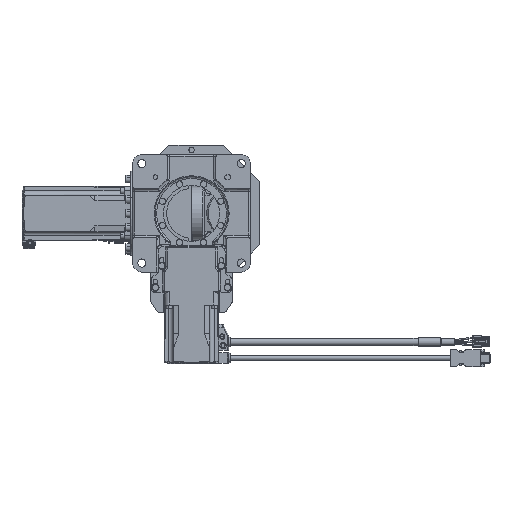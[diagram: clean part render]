
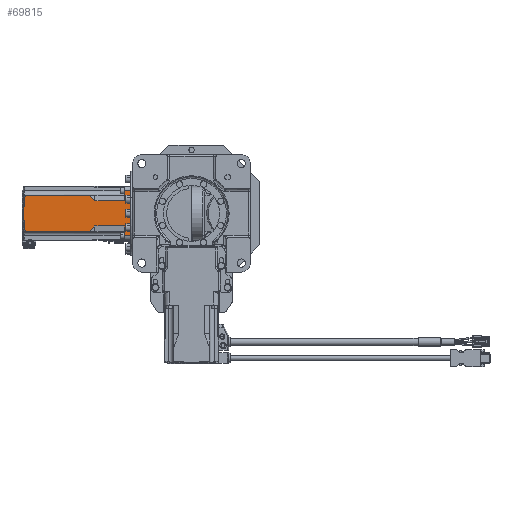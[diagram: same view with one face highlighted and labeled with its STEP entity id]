
A CAD part, front view. The second image highlights one B-rep face of the part: STEP entity #69815.
In plain terms, the highlighted planar face has unit normal (0, -1, 0).
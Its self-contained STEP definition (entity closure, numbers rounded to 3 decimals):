
#250 = FACE_OUTER_BOUND ( 'NONE', #83829, .T. ) ;
#635 = VECTOR ( 'NONE', #36204, 1000. ) ;
#1340 = ORIENTED_EDGE ( 'NONE', *, *, #72117, .T. ) ;
#1428 = CARTESIAN_POINT ( 'NONE',  ( -74.5, 137., -14. ) ) ;
#2146 = CARTESIAN_POINT ( 'NONE',  ( -126.3, 137., -14. ) ) ;
#2323 = LINE ( 'NONE', #78607, #635 ) ;
#3336 = EDGE_CURVE ( 'NONE', #86758, #80752, #80095, .T. ) ;
#4861 = EDGE_CURVE ( 'NONE', #26233, #61228, #65732, .T. ) ;
#5369 = EDGE_CURVE ( 'NONE', #79938, #28806, #15829, .T. ) ;
#6123 = VECTOR ( 'NONE', #77907, 1000. ) ;
#6360 = DIRECTION ( 'NONE',  ( 0., 0., 1. ) ) ;
#7818 = DIRECTION ( 'NONE',  ( 0., 1., 0. ) ) ;
#10040 = LINE ( 'NONE', #56034, #25400 ) ;
#10286 = ORIENTED_EDGE ( 'NONE', *, *, #85094, .F. ) ;
#10436 = EDGE_CURVE ( 'NONE', #86758, #45187, #14226, .T. ) ;
#11841 = DIRECTION ( 'NONE',  ( -0.718, 0., -0.696 ) ) ;
#11850 = DIRECTION ( 'NONE',  ( 0., -1., 0. ) ) ;
#12724 = CARTESIAN_POINT ( 'NONE',  ( -74.5, 137., 14. ) ) ;
#13127 = EDGE_CURVE ( 'NONE', #80752, #28806, #10040, .T. ) ;
#13151 = ORIENTED_EDGE ( 'NONE', *, *, #28835, .F. ) ;
#14226 = LINE ( 'NONE', #2146, #63303 ) ;
#15829 = CIRCLE ( 'NONE', #27233, 146.969 ) ;
#16968 = LINE ( 'NONE', #30355, #55667 ) ;
#17298 = CARTESIAN_POINT ( 'NONE',  ( -74.5, 137., 24.7 ) ) ;
#19197 = EDGE_CURVE ( 'NONE', #41488, #79938, #16968, .T. ) ;
#22141 = ORIENTED_EDGE ( 'NONE', *, *, #19197, .T. ) ;
#22649 = EDGE_CURVE ( 'NONE', #34315, #26233, #87519, .T. ) ;
#23420 = EDGE_CURVE ( 'NONE', #42165, #26135, #72127, .T. ) ;
#24988 = CARTESIAN_POINT ( 'NONE',  ( -113.2, 137., -20.2 ) ) ;
#25400 = VECTOR ( 'NONE', #43045, 1000. ) ;
#25473 = DIRECTION ( 'NONE',  ( 1., 0., 0. ) ) ;
#26135 = VERTEX_POINT ( 'NONE', #12724 ) ;
#26233 = VERTEX_POINT ( 'NONE', #68045 ) ;
#27233 = AXIS2_PLACEMENT_3D ( 'NONE', #32789, #11850, #39919 ) ;
#27907 = CARTESIAN_POINT ( 'NONE',  ( -106.8, 137., -30. ) ) ;
#28806 = VERTEX_POINT ( 'NONE', #56754 ) ;
#28835 = EDGE_CURVE ( 'NONE', #57844, #61228, #2323, .T. ) ;
#30355 = CARTESIAN_POINT ( 'NONE',  ( -92.941, 137., 20.2 ) ) ;
#31055 = CARTESIAN_POINT ( 'NONE',  ( -113.2, 137., 20.2 ) ) ;
#32734 = VECTOR ( 'NONE', #25473, 1000. ) ;
#32789 = CARTESIAN_POINT ( 'NONE',  ( -38.496, 137., 0. ) ) ;
#33348 = LINE ( 'NONE', #40467, #6123 ) ;
#33483 = CARTESIAN_POINT ( 'NONE',  ( -82.5, 137., -24.7 ) ) ;
#34098 = VECTOR ( 'NONE', #80199, 1000. ) ;
#34315 = VERTEX_POINT ( 'NONE', #60716 ) ;
#35593 = DIRECTION ( 'NONE',  ( 1., 0., 0. ) ) ;
#36204 = DIRECTION ( 'NONE',  ( 1., 0., 0. ) ) ;
#39919 = DIRECTION ( 'NONE',  ( 1., 0., 0. ) ) ;
#40467 = CARTESIAN_POINT ( 'NONE',  ( -105.711, 137., 12.946 ) ) ;
#41488 = VERTEX_POINT ( 'NONE', #31055 ) ;
#42165 = VERTEX_POINT ( 'NONE', #47217 ) ;
#43045 = DIRECTION ( 'NONE',  ( -1., 0., 0. ) ) ;
#44087 = ORIENTED_EDGE ( 'NONE', *, *, #79783, .F. ) ;
#45187 = VERTEX_POINT ( 'NONE', #1428 ) ;
#47217 = CARTESIAN_POINT ( 'NONE',  ( -106.8, 137., 14. ) ) ;
#49293 = PLANE ( 'NONE',  #84144 ) ;
#55667 = VECTOR ( 'NONE', #57146, 1000. ) ;
#55692 = CARTESIAN_POINT ( 'NONE',  ( -67.5, 137., 24.7 ) ) ;
#56034 = CARTESIAN_POINT ( 'NONE',  ( -92.941, 137., -20.2 ) ) ;
#56139 = DIRECTION ( 'NONE',  ( 0., 0., 1. ) ) ;
#56754 = CARTESIAN_POINT ( 'NONE',  ( -184.071, 137., -20.2 ) ) ;
#57146 = DIRECTION ( 'NONE',  ( -1., 0., 0. ) ) ;
#57844 = VERTEX_POINT ( 'NONE', #17298 ) ;
#60370 = ORIENTED_EDGE ( 'NONE', *, *, #10436, .T. ) ;
#60716 = CARTESIAN_POINT ( 'NONE',  ( -74.5, 137., -24.7 ) ) ;
#61228 = VERTEX_POINT ( 'NONE', #55692 ) ;
#62761 = VECTOR ( 'NONE', #6360, 1000. ) ;
#62950 = CARTESIAN_POINT ( 'NONE',  ( -106.8, 137., -14. ) ) ;
#63303 = VECTOR ( 'NONE', #35593, 1000. ) ;
#63428 = ORIENTED_EDGE ( 'NONE', *, *, #22649, .T. ) ;
#64602 = VECTOR ( 'NONE', #56139, 1000. ) ;
#65732 = LINE ( 'NONE', #73312, #62761 ) ;
#66902 = ORIENTED_EDGE ( 'NONE', *, *, #13127, .F. ) ;
#67601 = CARTESIAN_POINT ( 'NONE',  ( -105.711, 137., -12.945 ) ) ;
#68045 = CARTESIAN_POINT ( 'NONE',  ( -67.5, 137., -24.7 ) ) ;
#68328 = VECTOR ( 'NONE', #11841, 1000. ) ;
#69525 = CARTESIAN_POINT ( 'NONE',  ( -74.5, 137., 14. ) ) ;
#69815 = ADVANCED_FACE ( 'NONE', ( #250 ), #49293, .F. ) ;
#69887 = VECTOR ( 'NONE', #73020, 1000. ) ;
#70997 = ORIENTED_EDGE ( 'NONE', *, *, #5369, .T. ) ;
#71799 = ORIENTED_EDGE ( 'NONE', *, *, #23420, .F. ) ;
#72117 = EDGE_CURVE ( 'NONE', #42165, #41488, #33348, .T. ) ;
#72127 = LINE ( 'NONE', #80154, #69887 ) ;
#73020 = DIRECTION ( 'NONE',  ( 1., 0., 0. ) ) ;
#73312 = CARTESIAN_POINT ( 'NONE',  ( -67.5, 137., -30. ) ) ;
#73941 = LINE ( 'NONE', #86008, #34098 ) ;
#74662 = ORIENTED_EDGE ( 'NONE', *, *, #4861, .T. ) ;
#74821 = CARTESIAN_POINT ( 'NONE',  ( -184.071, 137., 20.2 ) ) ;
#76231 = LINE ( 'NONE', #69525, #64602 ) ;
#77907 = DIRECTION ( 'NONE',  ( -0.718, 0., 0.696 ) ) ;
#78607 = CARTESIAN_POINT ( 'NONE',  ( -82.5, 137., 24.7 ) ) ;
#79783 = EDGE_CURVE ( 'NONE', #34315, #45187, #73941, .T. ) ;
#79938 = VERTEX_POINT ( 'NONE', #74821 ) ;
#80095 = LINE ( 'NONE', #67601, #68328 ) ;
#80154 = CARTESIAN_POINT ( 'NONE',  ( -126.3, 137., 14. ) ) ;
#80199 = DIRECTION ( 'NONE',  ( 0., 0., 1. ) ) ;
#80752 = VERTEX_POINT ( 'NONE', #24988 ) ;
#83829 = EDGE_LOOP ( 'NONE', ( #71799, #1340, #22141, #70997, #66902, #88003, #60370, #44087, #63428, #74662, #13151, #10286 ) ) ;
#84144 = AXIS2_PLACEMENT_3D ( 'NONE', #27907, #7818, #88169 ) ;
#85094 = EDGE_CURVE ( 'NONE', #26135, #57844, #76231, .T. ) ;
#86008 = CARTESIAN_POINT ( 'NONE',  ( -74.5, 137., -14. ) ) ;
#86758 = VERTEX_POINT ( 'NONE', #62950 ) ;
#87519 = LINE ( 'NONE', #33483, #32734 ) ;
#88003 = ORIENTED_EDGE ( 'NONE', *, *, #3336, .F. ) ;
#88169 = DIRECTION ( 'NONE',  ( -1., 0., 0. ) ) ;
